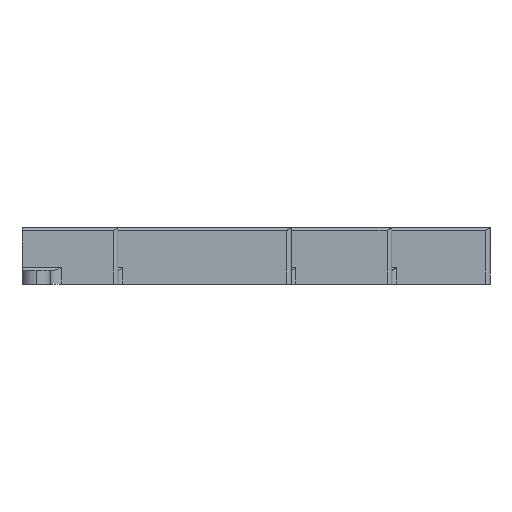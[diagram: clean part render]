
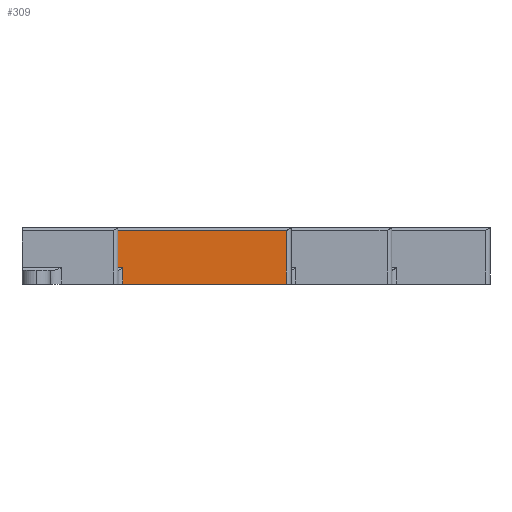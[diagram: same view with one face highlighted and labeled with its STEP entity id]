
A CAD part, front view. The second image highlights one B-rep face of the part: STEP entity #309.
In plain terms, the highlighted planar face has unit normal (0, -1, 0).
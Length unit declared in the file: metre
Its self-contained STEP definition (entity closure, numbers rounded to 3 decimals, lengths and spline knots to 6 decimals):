
#309=ADVANCED_FACE('0:506',(#844),#845,.T.);
#844=FACE_OUTER_BOUND('',#1633,.T.);
#845=PLANE('',#1634);
#1633=EDGE_LOOP('',(#2537,#2538,#2539,#2540,#2541,#2542));
#1634=AXIS2_PLACEMENT_3D('',#2543,#2544,#2545);
#2537=ORIENTED_EDGE('',*,*,#4927,.F.);
#2538=ORIENTED_EDGE('',*,*,#4928,.T.);
#2539=ORIENTED_EDGE('',*,*,#4929,.T.);
#2540=ORIENTED_EDGE('',*,*,#4930,.F.);
#2541=ORIENTED_EDGE('',*,*,#4924,.T.);
#2542=ORIENTED_EDGE('',*,*,#4920,.T.);
#2543=CARTESIAN_POINT('',(-0.044885,-0.02028,0.004324));
#2544=DIRECTION('',(0.0,-1.0,0.));
#2545=DIRECTION('',(0.0,0.,-1.0));
#4920=EDGE_CURVE('0:839',#5983,#5981,#5984,.T.);
#4924=EDGE_CURVE('0:1157',#5989,#5983,#5990,.F.);
#4927=EDGE_CURVE('0:956',#5993,#5981,#5994,.F.);
#4928=EDGE_CURVE('0:818',#5993,#5995,#5996,.F.);
#4929=EDGE_CURVE('0:2507',#5995,#5997,#5998,.T.);
#4930=EDGE_CURVE('0:2510',#5989,#5997,#5999,.T.);
#5981=VERTEX_POINT('',#7661);
#5983=VERTEX_POINT('',#7663);
#5984=LINE('',#7664,#7665);
#5989=VERTEX_POINT('',#7680);
#5990=LINE('',#7681,#7682);
#5993=VERTEX_POINT('',#7685);
#5994=LINE('',#7686,#7687);
#5995=VERTEX_POINT('',#7688);
#5996=LINE('',#7689,#7690);
#5997=VERTEX_POINT('',#7691);
#5998=LINE('',#7692,#7693);
#5999=LINE('',#7694,#7695);
#7661=CARTESIAN_POINT('',(-0.028505,-0.02028,0.0));
#7663=CARTESIAN_POINT('',(-0.028505,-0.02028,0.0035));
#7664=CARTESIAN_POINT('',(-0.028505,-0.02028,0.004324));
#7665=VECTOR('',#9941,1.0);
#7680=CARTESIAN_POINT('',(-0.05,-0.02028,0.0035));
#7681=CARTESIAN_POINT('',(-0.044885,-0.02028,0.0035));
#7682=VECTOR('',#9943,1.0);
#7685=CARTESIAN_POINT('',(0.0065,-0.02028,0.0));
#7686=CARTESIAN_POINT('',(-0.029465,-0.02028,0.0));
#7687=VECTOR('',#9947,1.0);
#7688=CARTESIAN_POINT('',(0.0065,-0.02028,0.0114));
#7689=CARTESIAN_POINT('',(0.0065,-0.02028,0.004324));
#7690=VECTOR('',#9948,1.0);
#7691=CARTESIAN_POINT('',(-0.05,-0.02028,0.0114));
#7692=CARTESIAN_POINT('',(-0.044885,-0.02028,0.0114));
#7693=VECTOR('',#9949,1.0);
#7694=CARTESIAN_POINT('',(-0.05,-0.02028,-0.00285));
#7695=VECTOR('',#9950,1.0);
#9941=DIRECTION('',(0.0,0.,-1.0));
#9943=DIRECTION('',(-1.0,0.0,0.0));
#9947=DIRECTION('',(1.0,0.0,-0.0));
#9948=DIRECTION('',(0.0,0.,-1.0));
#9949=DIRECTION('',(-1.0,0.0,0.0));
#9950=DIRECTION('',(0.,0.,1.0));
